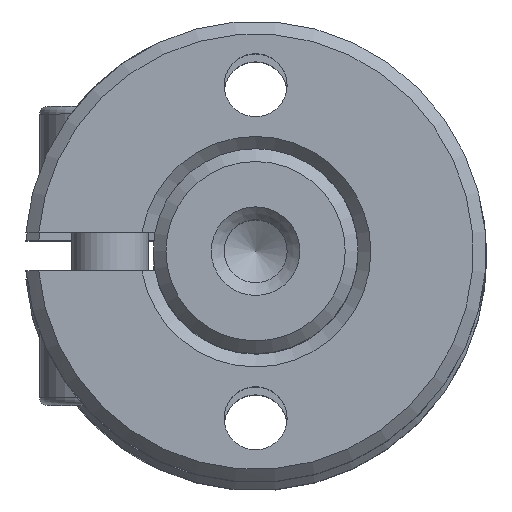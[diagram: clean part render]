
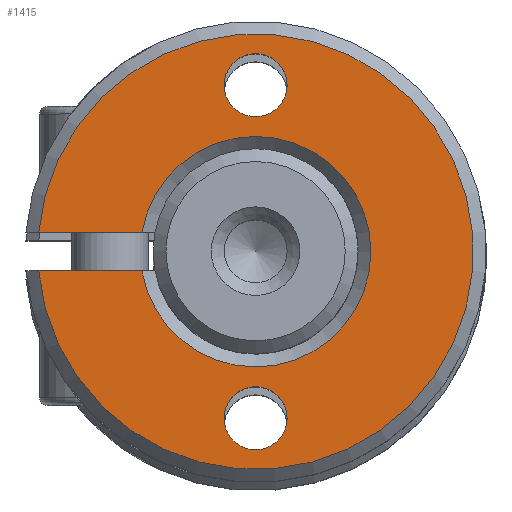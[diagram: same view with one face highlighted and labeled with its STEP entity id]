
A CAD part, top view. The second image highlights one B-rep face of the part: STEP entity #1415.
In plain terms, the highlighted planar face has unit normal (0, 0, 1).
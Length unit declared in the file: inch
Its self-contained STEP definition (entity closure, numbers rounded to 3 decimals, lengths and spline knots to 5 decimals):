
#95=FACE_BOUND('',#273,.T.);
#96=FACE_BOUND('',#274,.T.);
#183=FACE_OUTER_BOUND('',#272,.T.);
#272=EDGE_LOOP('',(#1108,#1109,#1110,#1111));
#273=EDGE_LOOP('',(#1112));
#274=EDGE_LOOP('',(#1113));
#370=LINE('',#2352,#447);
#375=LINE('',#2387,#452);
#447=VECTOR('',#1863,0.3937);
#452=VECTOR('',#1874,0.3937);
#518=CIRCLE('',#1559,0.17717);
#521=CIRCLE('',#1566,0.33465);
#523=CIRCLE('',#1569,0.0485);
#524=CIRCLE('',#1570,0.0485);
#627=VERTEX_POINT('',#2341);
#628=VERTEX_POINT('',#2345);
#629=VERTEX_POINT('',#2351);
#638=VERTEX_POINT('',#2383);
#640=VERTEX_POINT('',#2394);
#641=VERTEX_POINT('',#2396);
#792=EDGE_CURVE('',#627,#628,#518,.T.);
#794=EDGE_CURVE('',#629,#628,#370,.T.);
#806=EDGE_CURVE('',#627,#638,#375,.T.);
#808=EDGE_CURVE('',#629,#638,#521,.T.);
#810=EDGE_CURVE('',#640,#640,#523,.T.);
#811=EDGE_CURVE('',#641,#641,#524,.T.);
#1108=ORIENTED_EDGE('',*,*,#792,.F.);
#1109=ORIENTED_EDGE('',*,*,#806,.T.);
#1110=ORIENTED_EDGE('',*,*,#808,.F.);
#1111=ORIENTED_EDGE('',*,*,#794,.T.);
#1112=ORIENTED_EDGE('',*,*,#810,.T.);
#1113=ORIENTED_EDGE('',*,*,#811,.T.);
#1275=PLANE('',#1568);
#1415=ADVANCED_FACE('',(#183,#95,#96),#1275,.F.);
#1559=AXIS2_PLACEMENT_3D('',#2346,#1859,#1860);
#1566=AXIS2_PLACEMENT_3D('',#2391,#1879,#1880);
#1568=AXIS2_PLACEMENT_3D('',#2393,#1883,#1884);
#1569=AXIS2_PLACEMENT_3D('',#2395,#1885,#1886);
#1570=AXIS2_PLACEMENT_3D('',#2397,#1887,#1888);
#1859=DIRECTION('center_axis',(0.,0.,
1.));
#1860=DIRECTION('ref_axis',(0.,-1.,0.));
#1863=DIRECTION('',(1.,0.,0.));
#1874=DIRECTION('',(-1.,0.,0.));
#1879=DIRECTION('center_axis',(0.,0.,
-1.));
#1880=DIRECTION('ref_axis',(0.,-1.,0.));
#1883=DIRECTION('center_axis',(0.,0.,
-1.));
#1884=DIRECTION('ref_axis',(0.,1.,0.));
#1885=DIRECTION('center_axis',(0.,0.,
-1.));
#1886=DIRECTION('ref_axis',(0.,1.,0.));
#1887=DIRECTION('center_axis',(0.,0.,
-1.));
#1888=DIRECTION('ref_axis',(0.,1.,0.));
#2341=CARTESIAN_POINT('',(-0.17469,-0.02953,8.0315));
#2345=CARTESIAN_POINT('',(-0.17469,0.02953,8.0315));
#2346=CARTESIAN_POINT('Origin',(0.,0.,
8.0315));
#2351=CARTESIAN_POINT('',(-0.33334,0.02953,8.0315));
#2352=CARTESIAN_POINT('',(0.,0.02953,8.0315));
#2383=CARTESIAN_POINT('',(-0.33334,-0.02953,8.0315));
#2387=CARTESIAN_POINT('',(-0.17717,-0.02953,8.0315));
#2391=CARTESIAN_POINT('Origin',(0.,0.,
8.0315));
#2393=CARTESIAN_POINT('Origin',(0.,0.,
8.0315));
#2394=CARTESIAN_POINT('',(0.,0.20741,8.0315));
#2395=CARTESIAN_POINT('Origin',(0.,0.25591,
8.0315));
#2396=CARTESIAN_POINT('',(0.,-0.30441,8.0315));
#2397=CARTESIAN_POINT('Origin',(0.,-0.25591,
8.0315));
